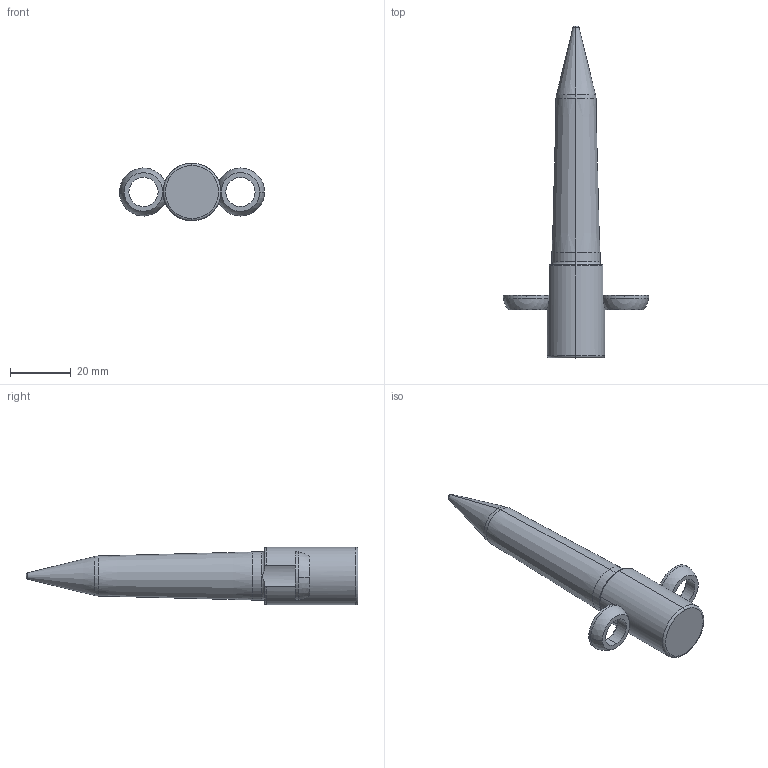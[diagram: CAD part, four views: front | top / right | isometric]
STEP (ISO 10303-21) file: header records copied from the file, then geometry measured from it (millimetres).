
FILE_DESCRIPTION (( 'STEP AP214' ), '1' );
FILE_NAME ('PA-T-.625-.125-2.0-3-A-F2.STEP', '2019-05-08T17:42:00', ( '' ), ( '' ), 'SwSTEP 2.0', 'SolidWorks 2017', '' );
FILE_SCHEMA (( 'AUTOMOTIVE_DESIGN' ));
Length unit declared in the file: inch
Products named in the file (3): SLPilot-PA-T-E_PA-T-.625-.125-2.0-3-A-F2; SLRadiusWasher_RadiusWasher-E; PA-T-.625-.125-2.0-3-A-F2
Assembly tree (3 placements, depth 2):
  PA-T-.625-.125-2.0-3-A-F2
    SLPilot-PA-T-E_PA-T-.625-.125-2.0-3-A-F2
    SLRadiusWasher_RadiusWasher-E  x2
Bounding box: 47.87 x 109.55 x 19.05 mm (x, y, z)
Volume: 20133.6 mm3; surface area: 6376.4 mm2
Topology: 3 solids, 3 shells, 49 faces, 112 edges, 69 vertices
Faces by surface type: cylinder 14, torus 11, sphere 8, cone 8, plane 8
Entity records: 1384 total; most frequent: CARTESIAN_POINT 332, DIRECTION 232, ORIENTED_EDGE 180, AXIS2_PLACEMENT_3D 107, EDGE_CURVE 90, CIRCLE 62, VERTEX_POINT 55, EDGE_LOOP 41
